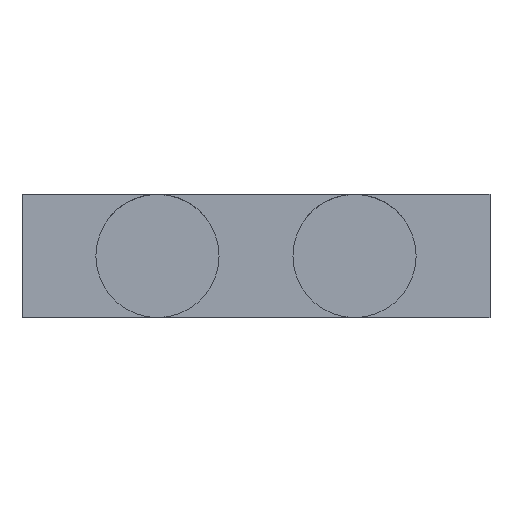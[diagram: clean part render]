
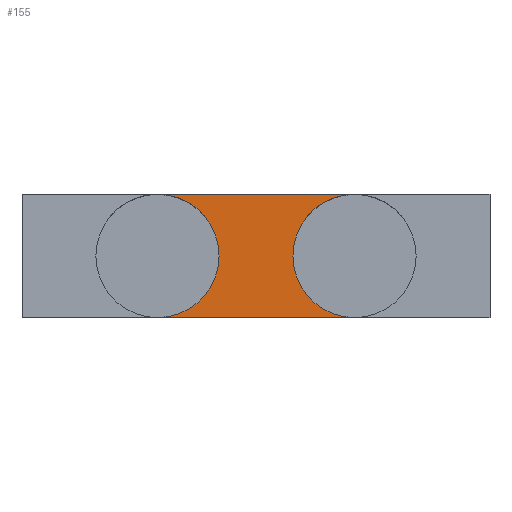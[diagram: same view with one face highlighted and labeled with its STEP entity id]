
A CAD part, left-side view. The second image highlights one B-rep face of the part: STEP entity #155.
In plain terms, the highlighted planar face has unit normal (-1, 0, 0).
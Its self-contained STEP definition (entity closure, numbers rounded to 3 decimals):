
#97=PLANE('',#401);
#111=FACE_OUTER_BOUND('',#216,.T.);
#122=LINE('',#607,#138);
#123=LINE('',#608,#139);
#138=VECTOR('',#446,1.);
#139=VECTOR('',#447,1.);
#155=ADVANCED_FACE('',(#111),#97,.T.);
#216=EDGE_LOOP('',(#255,#256,#257,#258));
#255=ORIENTED_EDGE('',*,*,#349,.T.);
#256=ORIENTED_EDGE('',*,*,#350,.T.);
#257=ORIENTED_EDGE('',*,*,#347,.F.);
#258=ORIENTED_EDGE('',*,*,#351,.F.);
#320=VERTEX_POINT('',#532);
#321=VERTEX_POINT('',#533);
#323=VERTEX_POINT('',#605);
#324=VERTEX_POINT('',#606);
#347=EDGE_CURVE('',#321,#320,#381,.T.);
#349=EDGE_CURVE('',#323,#324,#382,.T.);
#350=EDGE_CURVE('',#324,#320,#122,.T.);
#351=EDGE_CURVE('',#323,#321,#123,.T.);
#381=CIRCLE('',#398,2.5);
#382=CIRCLE('',#400,2.5);
#398=AXIS2_PLACEMENT_3D('',#534,#440,#441);
#400=AXIS2_PLACEMENT_3D('',#604,#444,#445);
#401=AXIS2_PLACEMENT_3D('',#609,#448,#449);
#440=DIRECTION('',(-1.,0.,0.));
#441=DIRECTION('',(0.,0.,1.));
#444=DIRECTION('',(1.,0.,0.));
#445=DIRECTION('',(0.,0.,1.));
#446=DIRECTION('',(0.,1.,0.));
#447=DIRECTION('',(0.,1.,0.));
#448=DIRECTION('',(-1.,0.,0.));
#449=DIRECTION('',(0.,0.,1.));
#532=CARTESIAN_POINT('',(516.895,1269.323,2.5));
#533=CARTESIAN_POINT('',(516.895,1269.323,-2.5));
#534=CARTESIAN_POINT('',(516.895,1269.323,0.));
#604=CARTESIAN_POINT('',(516.895,1261.323,0.));
#605=CARTESIAN_POINT('',(516.895,1261.323,-2.5));
#606=CARTESIAN_POINT('',(516.895,1261.323,2.5));
#607=CARTESIAN_POINT('',(516.895,1255.823,2.5));
#608=CARTESIAN_POINT('',(516.895,1255.823,-2.5));
#609=CARTESIAN_POINT('',(516.895,1255.823,2.5));
